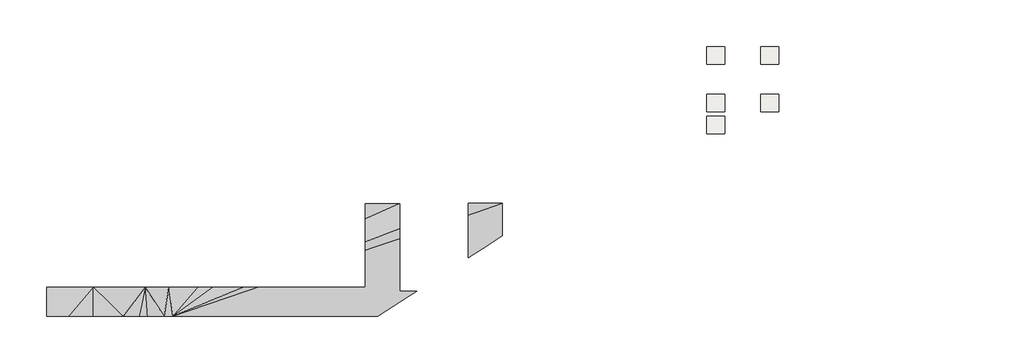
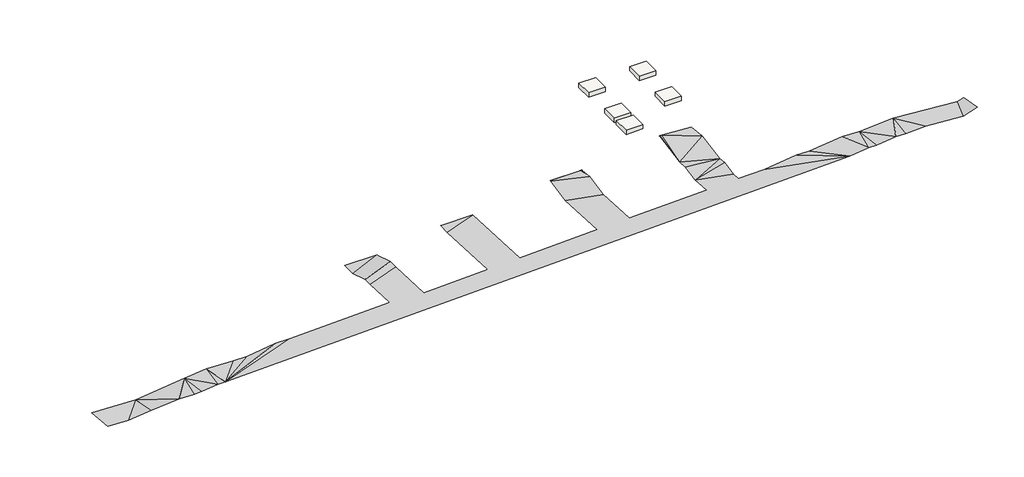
# One storey: 5 slabs, 1 proxy.
"""IFC4 building model written with IfcOpenShell, lengths in millimetres."""

import ifcopenshell
import ifcopenshell.guid

model = None  # the IFC model being written
_history = None  # IfcOwnerHistory: only IFC2X3 demands one
_inside = {}  # id of a spatial element -> (the spatial element, [elements in it])
_under = {}  # id of a project, library or spatial element -> (it, [spatial elements below it])
_declared = {}  # id of a project -> (the project, [libraries it declares])
_typed = {}  # id of a type object -> (the type object, [elements of that type])
_made_of = {}  # id of a material, layer set ... -> (it, [elements and type objects made of it])


def new_model(schema):
    """Start an empty IFC model of exactly this schema.

    Asked for "IFC4X3", IfcOpenShell would pick the latest addendum, in which some entities
    have other attributes; the version numbers below select the first issue.
    IFC2X3 requires an IfcOwnerHistory on every rooted entity: one is made here for all.
    """
    global model, _history
    if schema == "IFC4X3":
        model = ifcopenshell.file(schema_version=(4, 3, 0, 0))
    else:
        model = ifcopenshell.file(schema=schema)
    _inside.clear()
    _under.clear()
    _declared.clear()
    _typed.clear()
    _made_of.clear()
    _history = None
    if model.schema == "IFC2X3":
        org = make("IfcOrganization", Name="unknown")
        user = make(
            "IfcPersonAndOrganization",
            ThePerson=make("IfcPerson", FamilyName="unknown"),
            TheOrganization=org,
        )
        app = make(
            "IfcApplication",
            ApplicationDeveloper=org,
            Version="unknown",
            ApplicationFullName="unknown",
            ApplicationIdentifier="unknown",
        )
        _history = make(
            "IfcOwnerHistory",
            OwningUser=user,
            OwningApplication=app,
            ChangeAction="ADDED",
            CreationDate=0,
        )
    return model


def make(cls, **values):
    """One entity of the class cls with the attributes given. An attribute that is None is left unset."""
    return model.create_entity(
        cls, **{name: value for name, value in values.items() if value is not None}
    )


def rooted(cls, **values):
    """An entity with a GlobalId (a new one), such as an element, a storey or a relation."""
    return make(cls, GlobalId=ifcopenshell.guid.new(), OwnerHistory=_history, **values)


def si_unit(unit_type, name, prefix=None):
    """IfcSIUnit, for example si_unit("LENGTHUNIT", "METRE", prefix="MILLI")."""
    return make("IfcSIUnit", UnitType=unit_type, Prefix=prefix, Name=name)


def assignment(units):
    """IfcUnitAssignment: the units of a project."""
    return None if units is None else make("IfcUnitAssignment", Units=units)


def point(xyz):
    """IfcCartesianPoint."""
    return None if xyz is None else make("IfcCartesianPoint", Coordinates=xyz)


def direction(xyz):
    """IfcDirection."""
    return None if xyz is None else make("IfcDirection", DirectionRatios=xyz)


def frame(location, z_axis=None, x_axis=None):
    """IfcAxis2Placement3D, a coordinate frame: its origin and axes. An axis left out is left unset."""
    return make(
        "IfcAxis2Placement3D",
        Location=point(location),
        Axis=direction(z_axis),
        RefDirection=direction(x_axis),
    )


def origin():
    """The frame at (0, 0, 0) with its axes left unset."""
    return frame((0.0, 0.0, 0.0))


def place(relative_to, where):
    """IfcLocalPlacement: puts the frame where relative to a parent placement (None: the world)."""
    return make(
        "IfcLocalPlacement", PlacementRelTo=relative_to, RelativePlacement=where
    )


def context(
    kind, dimensions, precision=None, world=None, true_north=None, identifier=None
):
    """IfcGeometricRepresentationContext, for example the 3D "Model" context."""
    return make(
        "IfcGeometricRepresentationContext",
        ContextIdentifier=identifier,
        ContextType=kind,
        CoordinateSpaceDimension=dimensions,
        Precision=precision,
        WorldCoordinateSystem=world,
        TrueNorth=true_north,
    )


def project(units=None, contexts=None):
    """IfcProject with its units and contexts."""
    return rooted(
        "IfcProject",
        Name="project",
        RepresentationContexts=contexts,
        UnitsInContext=assignment(units),
    )


def spatial(cls, under=None, at=None, **own):
    """A site, building, storey or space (cls), placed at a placement, below another one or the project."""
    s = rooted(cls, ObjectPlacement=at, **own)
    if under is not None:
        _under.setdefault(under.id(), (under, []))[1].append(s)
    return s


def polyline(points):
    """IfcPolyline through the points."""
    return make("IfcPolyline", Points=[point(p) for p in points])


def point_list(points):
    """IfcCartesianPointList2D or 3D."""
    cls = (
        "IfcCartesianPointList2D" if len(points[0]) == 2 else "IfcCartesianPointList3D"
    )
    return make(cls, CoordList=points)


def outline(outer, holes=None, kind="AREA"):
    """IfcArbitraryClosedProfileDef: a profile drawn as a closed curve; with holes, ...WithVoids."""
    if holes is None:
        return make("IfcArbitraryClosedProfileDef", ProfileType=kind, OuterCurve=outer)
    return make(
        "IfcArbitraryProfileDefWithVoids",
        ProfileType=kind,
        OuterCurve=outer,
        InnerCurves=holes,
    )


def extrude(swept, where, along, depth):
    """IfcExtrudedAreaSolid: the profile swept, set in the frame where, extruded along a direction by depth."""
    return make(
        "IfcExtrudedAreaSolid",
        SweptArea=swept,
        Position=where,
        ExtrudedDirection=direction(along),
        Depth=depth,
    )


def triangles(points, corners, closed=None, point_numbers=None):
    """IfcTriangulatedFaceSet: each triangle names its three corners, points numbered from 1."""
    return make(
        "IfcTriangulatedFaceSet",
        Coordinates=point_list(points),
        Closed=closed,
        CoordIndex=corners,
        PnIndex=point_numbers,
    )


def shape(context_of_items, identifier, shape_type, items):
    """IfcShapeRepresentation: the items that make up one representation, for example the "Body"."""
    return make(
        "IfcShapeRepresentation",
        ContextOfItems=context_of_items,
        RepresentationIdentifier=identifier,
        RepresentationType=shape_type,
        Items=items,
    )


def source(mapping_origin, context_of_items, identifier, shape_type, items):
    """IfcRepresentationMap: a shape defined once, which mapped items show again and again."""
    return make(
        "IfcRepresentationMap",
        MappingOrigin=mapping_origin,
        MappedRepresentation=shape(context_of_items, identifier, shape_type, items),
    )


def transform(
    local_origin,
    x_axis=None,
    y_axis=None,
    z_axis=None,
    scale=None,
    scale2=None,
    scale3=None,
    uniform=True,
):
    """IfcCartesianTransformationOperator3D, or its non-uniform kind. x_axis, y_axis, z_axis: its Axis1, 2, 3."""
    if uniform:
        return make(
            "IfcCartesianTransformationOperator3D",
            Axis1=direction(x_axis),
            Axis2=direction(y_axis),
            LocalOrigin=point(local_origin),
            Scale=scale,
            Axis3=direction(z_axis),
        )
    return make(
        "IfcCartesianTransformationOperator3DnonUniform",
        Axis1=direction(x_axis),
        Axis2=direction(y_axis),
        LocalOrigin=point(local_origin),
        Scale=scale,
        Axis3=direction(z_axis),
        Scale2=scale2,
        Scale3=scale3,
    )


def mapped(mapping_source, mapping_target):
    """IfcMappedItem: shows the shape of a source again, moved by a transform."""
    return make(
        "IfcMappedItem", MappingSource=mapping_source, MappingTarget=mapping_target
    )


def made_of(thing, what):
    """Note that an element or type object is made of a material, layer set ...; save() writes the relation."""
    if what is not None:
        _made_of.setdefault(what.id(), (what, []))[1].append(thing)
    return thing


def element(
    cls,
    number,
    at=None,
    inside=None,
    cuts=None,
    type_object=None,
    material=None,
    context=None,
    identifier="Body",
    shape_type=None,
    held_by="IfcProductDefinitionShape",
    body=None,
    shapes=None,
    **own,
):
    """One element of the class cls, such as IfcWall. Its Tag is "e" and its number.

    at: its placement. inside: the storey or other place that contains it. cuts: it is an
    opening in that element (IfcRelVoidsElement). A single representation is given by context,
    identifier, shape_type and body (its items); several are given by shapes. held_by: the class
    of the entity that holds the representations. save() writes the other relations.
    """
    e = rooted(cls, Tag="e%d" % number, ObjectPlacement=at, **own)
    if body is not None:
        shapes = [shape(context, identifier, shape_type, body)]
    if shapes is not None:
        e.Representation = make(held_by, Representations=shapes)
    if inside is not None:
        _inside.setdefault(inside.id(), (inside, []))[1].append(e)
    if cuts is not None:
        rooted(
            "IfcRelVoidsElement", RelatingBuildingElement=cuts, RelatedOpeningElement=e
        )
    if type_object is not None:
        _typed.setdefault(type_object.id(), (type_object, []))[1].append(e)
    return made_of(e, material)


def aggregate(whole, parts):
    """IfcRelAggregates: a whole, such as a stair, and the parts it consists of."""
    return rooted("IfcRelAggregates", RelatingObject=whole, RelatedObjects=parts)


def save(model, path):
    """Write the relations noted so far, then the file.

    IfcRelAggregates (storeys below a building ...), IfcRelContainedInSpatialStructure (elements
    in a storey), IfcRelDefinesByType, IfcRelAssociatesMaterial and IfcRelDeclares: one each for
    every whole, place, type object, material and project.
    """
    for whole, parts in _under.values():
        aggregate(whole, parts)
    for where, things in _inside.values():
        rooted(
            "IfcRelContainedInSpatialStructure",
            RelatedElements=things,
            RelatingStructure=where,
        )
    for kind, things in _typed.values():
        rooted("IfcRelDefinesByType", RelatedObjects=things, RelatingType=kind)
    for what, things in _made_of.values():
        rooted("IfcRelAssociatesMaterial", RelatedObjects=things, RelatingMaterial=what)
    for by, libraries in _declared.values():
        rooted("IfcRelDeclares", RelatingContext=by, RelatedDefinitions=libraries)
    model.write(path)


def slab_c4e9b2b2(model_context):
    return source(origin(), model_context, "Body", "SweptSolid", [
        extrude(outline(polyline([(558.8, 558.8), (558.8, -558.8), (-558.8, -558.8), (-558.8, 558.8), (558.8, 558.8)])), frame((0.0, 0.0, -304.8), z_axis=(0.0, 0.0, 1.0), x_axis=(1.0, 0.0, 0.0)), (0.0, 0.0, 1.0), 304.8),
    ])


model = new_model("IFC4")

# Units and contexts
model_context = context("Model", 3, world=origin())
ifc_project = project(units=[si_unit("LENGTHUNIT", "METRE", prefix="MILLI")], contexts=[model_context])

# Site, building, storey
site = spatial("IfcSite", under=ifc_project)
building = spatial("IfcBuilding", under=site)
storey = spatial("IfcBuildingStorey", under=building, Name="D - B.O. Footing", Elevation=-1250.95)

# Proxy
placement = place(None, origin())
element("IfcBuildingElementProxy", 1, Name="Building Element Proxy", at=placement, inside=storey, context=model_context, shape_type="Tessellation", body=[
    triangles([(-7983.0627228, -9081.728801, -710.8081392), (-7985.9369659, -9081.728801, -711.1808636), (-10116.6627228, -9081.728801, -711.1808636), (-10116.6627228, -10035.2060669, -696.9708298), (-10116.6627228, -11470.8940155, -259.4976417), (-10116.6627228, -12014.3887482, -283.8474453), (-10116.6627228, -14324.6686615, -167.6376964), (-16869.7016876, -14324.6686615, -387.3532459), (-17807.7932648, -14324.6686615, -387.3532459), (-19702.2811157, -14324.6686615, -633.0436272), (-20640.3726929, -14324.6686615, -633.0436272), (-22444.6602356, -14324.6686615, -585.7792883), (-23923.4443909, -14324.6686615, -712.4814383), (-27171.0531372, -14324.6686615, -1125.2174372), (-30114.075824, -14324.6686615, -997.0241718), (-30114.075824, -16153.4686615, -874.3592754), (-28718.970282, -16153.4686615, -935.1278046), (-27179.4782043, -16153.4686615, -739.4750668), (-25312.6944763, -16153.4686615, -579.5293064), (-24310.2672913, -16153.4686615, -605.7884957), (-23789.0828247, -16153.4686615, -605.7884957), (-22736.5424194, -16153.4686615, -469.2876343), (-22215.3556274, -16153.4686615, -469.2876343), (19698.5511108, -16153.4686615, 894.4148827), (20963.5343628, -16153.4686615, 1043.3249067), (21484.7188293, -16153.4686615, 1043.3249067), (22772.1448975, -16153.4686615, 1192.2349308), (23451.7243469, -16153.4686615, 1158.3478277), (24792.5332031, -16153.4686615, 1250.9332375), (27309.7656006, -16153.4686615, 1048.3476379), (28255.124176, -16153.4686615, 1376.3459312), (28255.124176, -14542.7286072, 1064.0460257), (27835.3660767, -14542.7286072, 918.4081129), (23544.646582, -14542.7286072, 1263.7230091), (21259.1837585, -14542.7286072, 1105.9077873), (20100.8149292, -14542.7286072, 1163.6696686), (17906.3477142, -14542.7286072, 909.8467169), (17017.968219, -14542.7286072, 909.8467169), (14861.754483, -14542.7286072, 656.0237652), (13137.4981018, -14542.7286072, 599.9237011), (13137.4981018, -13968.5206329, 571.0403624), (13137.4981018, -12958.5636749, 778.5707182), (13137.4981018, -12396.1166107, 731.9620079), (13137.4981018, -10344.0360535, 1089.2088793), (13137.4981018, -9056.3291885, 959.8810175), (11168.784549, -9056.3291885, 1058.0507521), (11069.5545593, -9056.3291885, 1066.8), (11038.6227264, -9056.3291885, 1067.1182219), (11035.9391693, -9056.3291885, 1061.9654114), (11003.8981018, -9056.3291885, 1060.6850389), (11003.8981018, -9060.0028015, 1061.3853596), (11003.8981018, -9080.4428329, 1062.4052828), (11003.8981018, -11435.7147675, 652.3758047), (11003.8981018, -12087.5424225, 706.391185), (11003.8981018, -13257.9930725, 465.8816648), (11003.8981018, -14542.7286072, 530.5053366), (5822.2981018, -14542.7286072, 361.9178435), (5822.2981018, -11532.4274689, 210.4962177), (5822.2981018, -9972.2029358, 531.0980693), (5822.2981018, -9103.3094604, 459.0949061), (5822.2981018, -9080.4428329, 463.0757678), (5822.2981018, -9056.3291885, 461.8725346), (5800.3099091, -9056.3291885, 459.3293032), (5772.9889023, -9056.3291885, 458.3175917), (5733.7442047, -9056.3291885, 458.4951244), (3688.6981018, -9056.3291885, 458.4951244), (3688.6981018, -9080.4428329, 457.2), (3688.6981018, -9101.1816833, 458.9185724), (3688.6981018, -10821.9010712, 105.3374929), (3688.6981018, -14542.7286072, 292.4994427), (-1540.6234039, -14542.7286072, 122.3592919), (-1540.6234039, -9080.4428329, -152.4), (-1540.6234039, -9056.3291885, -151.2619336), (-1541.4877407, -9056.3291885, -151.3042184), (-3644.4057472, -9056.3291885, -151.3042184), (-3674.2234039, -9056.3291885, -151.2558202), (-3674.2234039, -9080.4428329, -152.4), (-3674.2234039, -9810.3686279, -185.1023098), (-3674.2234039, -14568.1293823, 54.2185519), (-7983.0627228, -14568.1293823, -85.9729954), (-7983.0627228, -11284.4635345, -251.1451355), (-7983.0627228, -10679.2272217, -224.0291671), (5771.4982956, -9080.4428329, 457.2), (11041.893457, -9080.4428329, 1066.8)], [[15, 16, 17], [14, 18, 19], [17, 18, 14], [19, 20, 13], [15, 17, 14], [13, 21, 22], [13, 14, 19], [13, 22, 12], [21, 13, 20], [23, 80, 7], [80, 23, 79], [79, 24, 71], [70, 71, 24], [78, 79, 71], [7, 80, 6], [24, 79, 23], [11, 12, 23], [10, 11, 23], [8, 9, 23], [7, 8, 23], [10, 23, 9], [23, 12, 22], [4, 5, 82], [81, 82, 5], [6, 80, 81], [81, 5, 6], [4, 82, 2], [3, 4, 2], [76, 77, 75], [82, 1, 2], [78, 72, 75], [78, 71, 72], [68, 65, 67], [59, 65, 68], [75, 72, 74], [74, 72, 73], [67, 65, 66], [65, 83, 64], [65, 59, 83], [69, 59, 68], [78, 75, 77], [69, 70, 58], [38, 39, 24], [37, 24, 36], [24, 37, 38], [36, 24, 25], [39, 40, 24], [56, 40, 41], [40, 56, 24], [56, 41, 55], [57, 24, 56], [42, 55, 41], [24, 57, 70], [34, 27, 28], [33, 29, 30], [28, 29, 34], [33, 30, 31], [25, 26, 35], [26, 27, 35], [25, 35, 36], [35, 27, 34], [34, 29, 33], [31, 32, 33], [60, 83, 59], [52, 53, 84], [61, 83, 60], [64, 83, 63], [61, 62, 63], [61, 63, 83], [53, 54, 43], [69, 58, 59], [52, 49, 51], [52, 84, 49], [53, 43, 44], [46, 53, 44], [55, 43, 54], [53, 46, 84], [51, 49, 50], [84, 48, 49], [47, 48, 84], [84, 46, 47], [44, 45, 46], [42, 43, 55], [58, 70, 57]], closed=False),
])

# Slabs
slab_shape = slab_c4e9b2b2(model_context)
element("IfcSlab", 2, ObjectType="Footing-Rectangular : 3'8\" x 3'8\" x 1'", at=placement, inside=storey, context=model_context, shape_type="MappedRepresentation", body=[
    mapped(slab_shape, transform((11841.6370514, -2782.5289462, -1250.95), x_axis=(1.0, 0.0, 0.0), y_axis=(0.0, 1.0, 0.0), z_axis=(0.0, 0.0, 1.0))),
])
element("IfcSlab", 3, ObjectType="Footing-Rectangular : 3'8\" x 3'8\" x 1'", at=placement, inside=storey, context=model_context, shape_type="MappedRepresentation", body=[
    mapped(slab_shape, transform((15232.5370514, -2782.5289462, -1250.95), x_axis=(1.0, 0.0, 0.0), y_axis=(0.0, 1.0, 0.0), z_axis=(0.0, 0.0, 1.0))),
])
element("IfcSlab", 4, ObjectType="Footing-Rectangular : 3'8\" x 3'8\" x 1'", at=placement, inside=storey, context=model_context, shape_type="MappedRepresentation", body=[
    mapped(slab_shape, transform((11841.6370514, -4154.1289462, -1250.95), x_axis=(1.0, 0.0, 0.0), y_axis=(0.0, 1.0, 0.0), z_axis=(0.0, 0.0, 1.0))),
])
element("IfcSlab", 5, ObjectType="Footing-Rectangular : 3'8\" x 3'8\" x 1'", at=placement, inside=storey, context=model_context, shape_type="MappedRepresentation", body=[
    mapped(slab_shape, transform((11841.6370514, 201.9710538, -1250.95), x_axis=(1.0, 0.0, 0.0), y_axis=(0.0, 1.0, 0.0), z_axis=(0.0, 0.0, 1.0))),
])
element("IfcSlab", 6, ObjectType="Footing-Rectangular : 3'8\" x 3'8\" x 1'", at=placement, inside=storey, context=model_context, shape_type="MappedRepresentation", body=[
    mapped(slab_shape, transform((15232.5370514, 201.9710538, -1250.95), x_axis=(1.0, 0.0, 0.0), y_axis=(0.0, 1.0, 0.0), z_axis=(0.0, 0.0, 1.0))),
])

save(model, "model.ifc")
